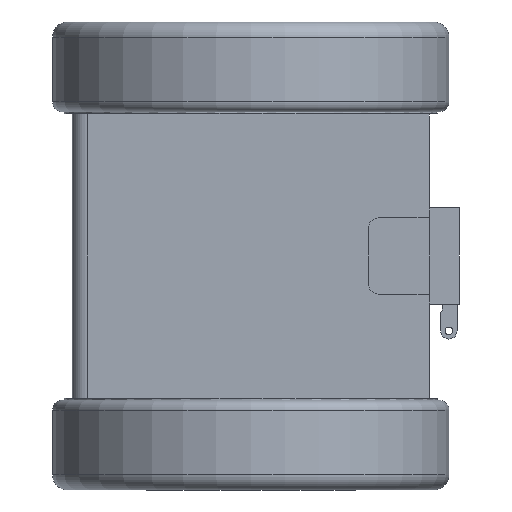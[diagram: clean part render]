
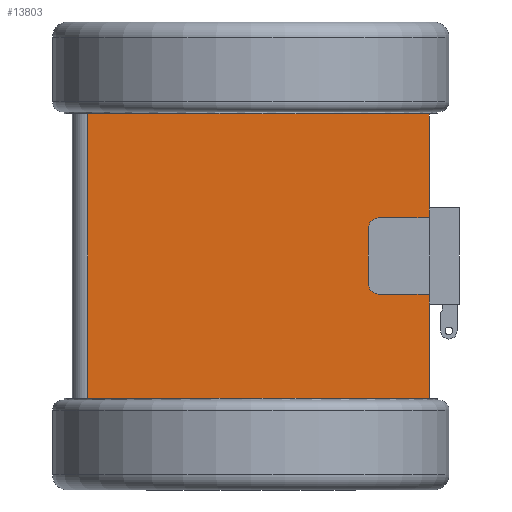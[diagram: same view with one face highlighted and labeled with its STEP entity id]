
A CAD part, left-side view. The second image highlights one B-rep face of the part: STEP entity #13803.
In plain terms, the highlighted planar face has unit normal (-1, 0, 0).
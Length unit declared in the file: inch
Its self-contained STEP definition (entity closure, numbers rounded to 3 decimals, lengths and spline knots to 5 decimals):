
#10 = ORIENTED_EDGE ( 'NONE', *, *, #3870, .T. ) ;
#27 = ORIENTED_EDGE ( 'NONE', *, *, #3016, .F. ) ;
#86 = ORIENTED_EDGE ( 'NONE', *, *, #3873, .T. ) ;
#117 = EDGE_LOOP ( 'NONE', ( #27, #35658, #35715, #507, #212, #10, #86, #228, #36008, #198, #35592, #36129, #419, #36066, #257, #35635 ) ) ;
#198 = ORIENTED_EDGE ( 'NONE', *, *, #3452, .F. ) ;
#212 = ORIENTED_EDGE ( 'NONE', *, *, #3850, .T. ) ;
#228 = ORIENTED_EDGE ( 'NONE', *, *, #3869, .T. ) ;
#257 = ORIENTED_EDGE ( 'NONE', *, *, #3042, .F. ) ;
#419 = ORIENTED_EDGE ( 'NONE', *, *, #3872, .F. ) ;
#507 = ORIENTED_EDGE ( 'NONE', *, *, #3007, .F. ) ;
#1841 = LINE ( 'NONE', #22064, #1847 ) ;
#1847 = VECTOR ( 'NONE', #22067, 39.37008 ) ;
#2060 = FACE_OUTER_BOUND ( 'NONE', #117, .T. ) ;
#2116 = CARTESIAN_POINT ( 'NONE',  ( -4.41, 4.035, -3.51095 ) ) ;
#2120 = CARTESIAN_POINT ( 'NONE',  ( -4.41, -3.16, 0.943 ) ) ;
#2171 = CARTESIAN_POINT ( 'NONE',  ( -4.41, -4.41, -0.943 ) ) ;
#2282 = CARTESIAN_POINT ( 'NONE',  ( -4.41, -4.41, -1.19 ) ) ;
#2310 = CARTESIAN_POINT ( 'NONE',  ( -4.41, -4.41, 0.943 ) ) ;
#2327 = CARTESIAN_POINT ( 'NONE',  ( -4.41, -4.41, 1.19 ) ) ;
#2360 = CARTESIAN_POINT ( 'NONE',  ( -4.41, -1.34998, -3.51095 ) ) ;
#2381 = CARTESIAN_POINT ( 'NONE',  ( -4.41, 1.34998, 3.51095 ) ) ;
#2401 = CARTESIAN_POINT ( 'NONE',  ( -4.41, -2.91, 0.693 ) ) ;
#2558 = CARTESIAN_POINT ( 'NONE',  ( -4.41, 1.34998, -3.51095 ) ) ;
#3007 = EDGE_CURVE ( 'NONE', #5028, #4448, #32708, .T. ) ;
#3016 = EDGE_CURVE ( 'NONE', #4278, #4474, #32721, .T. ) ;
#3022 = EDGE_CURVE ( 'NONE', #4474, #4850, #32737, .T. ) ;
#3042 = EDGE_CURVE ( 'NONE', #4850, #4867, #32529, .T. ) ;
#3132 = EDGE_CURVE ( 'NONE', #4580, #4813, #32285, .T. ) ;
#3452 = EDGE_CURVE ( 'NONE', #4574, #4332, #20224, .T. ) ;
#3765 = EDGE_CURVE ( 'NONE', #4500, #4278, #19505, .T. ) ;
#3850 = EDGE_CURVE ( 'NONE', #5028, #4938, #19910, .T. ) ;
#3854 = EDGE_CURVE ( 'NONE', #4448, #4500, #19958, .T. ) ;
#3855 = EDGE_CURVE ( 'NONE', #4332, #4272, #19722, .T. ) ;
#3859 = EDGE_CURVE ( 'NONE', #4813, #4574, #20074, .T. ) ;
#3869 = EDGE_CURVE ( 'NONE', #4913, #4272, #19776, .T. ) ;
#3870 = EDGE_CURVE ( 'NONE', #4938, #4392, #20560, .T. ) ;
#3872 = EDGE_CURVE ( 'NONE', #4250, #4580, #20346, .T. ) ;
#3873 = EDGE_CURVE ( 'NONE', #4392, #4913, #20358, .T. ) ;
#4250 = VERTEX_POINT ( 'NONE', #2171 ) ;
#4272 = VERTEX_POINT ( 'NONE', #2116 ) ;
#4278 = VERTEX_POINT ( 'NONE', #2120 ) ;
#4332 = VERTEX_POINT ( 'NONE', #2558 ) ;
#4392 = VERTEX_POINT ( 'NONE', #2381 ) ;
#4448 = VERTEX_POINT ( 'NONE', #2327 ) ;
#4474 = VERTEX_POINT ( 'NONE', #2401 ) ;
#4500 = VERTEX_POINT ( 'NONE', #2310 ) ;
#4574 = VERTEX_POINT ( 'NONE', #2360 ) ;
#4580 = VERTEX_POINT ( 'NONE', #2282 ) ;
#4813 = VERTEX_POINT ( 'NONE', #35222 ) ;
#4850 = VERTEX_POINT ( 'NONE', #35052 ) ;
#4867 = VERTEX_POINT ( 'NONE', #35090 ) ;
#4913 = VERTEX_POINT ( 'NONE', #35065 ) ;
#4938 = VERTEX_POINT ( 'NONE', #35172 ) ;
#5028 = VERTEX_POINT ( 'NONE', #35552 ) ;
#7218 = CARTESIAN_POINT ( 'NONE',  ( -4.41, -4.41, 0.943 ) ) ;
#7219 = DIRECTION ( 'NONE',  ( 0., 1., 0. ) ) ;
#9049 = DIRECTION ( 'NONE',  ( 0., 1., 0. ) ) ;
#9103 = DIRECTION ( 'NONE',  ( 0., 0., -1. ) ) ;
#9233 = DIRECTION ( 'NONE',  ( 0., 1., 0. ) ) ;
#9251 = CARTESIAN_POINT ( 'NONE',  ( -4.41, -4.41, -3.51095 ) ) ;
#9252 = DIRECTION ( 'NONE',  ( 0., 1., 0. ) ) ;
#9253 = CARTESIAN_POINT ( 'NONE',  ( -4.41, -4.41, 3.51095 ) ) ;
#9255 = DIRECTION ( 'NONE',  ( 0., 0., -1. ) ) ;
#9259 = CARTESIAN_POINT ( 'NONE',  ( -4.41, -4.41, 1.19 ) ) ;
#9260 = CARTESIAN_POINT ( 'NONE',  ( -4.41, -4.41, -3.51095 ) ) ;
#9313 = CARTESIAN_POINT ( 'NONE',  ( -4.41, 4.035, -3.51095 ) ) ;
#9333 = DIRECTION ( 'NONE',  ( 0., 1., 0. ) ) ;
#9394 = CARTESIAN_POINT ( 'NONE',  ( -4.41, -4.41, 3.48595 ) ) ;
#9403 = DIRECTION ( 'NONE',  ( 0., 0., -1. ) ) ;
#9419 = CARTESIAN_POINT ( 'NONE',  ( -4.41, -4.41, 3.51095 ) ) ;
#9448 = CARTESIAN_POINT ( 'NONE',  ( -4.41, -4.41, 3.51095 ) ) ;
#9489 = DIRECTION ( 'NONE',  ( 0., 1., 0. ) ) ;
#10375 = AXIS2_PLACEMENT_3D ( 'NONE', #15972, #15924, #15998 ) ;
#10378 = AXIS2_PLACEMENT_3D ( 'NONE', #15688, #16116, #15799 ) ;
#13803 = ADVANCED_FACE ( 'NONE', ( #2060 ), #21415, .F. ) ;
#14824 = DIRECTION ( 'NONE',  ( 0., 0., -1. ) ) ;
#15098 = CARTESIAN_POINT ( 'NONE',  ( -4.41, -4.41, 3.48595 ) ) ;
#15125 = DIRECTION ( 'NONE',  ( 0., 0., -1. ) ) ;
#15223 = CARTESIAN_POINT ( 'NONE',  ( -4.41, -4.41, 3.48595 ) ) ;
#15688 = CARTESIAN_POINT ( 'NONE',  ( -4.41, -3.16, 0.693 ) ) ;
#15799 = DIRECTION ( 'NONE',  ( 0., -1., 0. ) ) ;
#15837 = CARTESIAN_POINT ( 'NONE',  ( -4.41, -2.91, 0.693 ) ) ;
#15924 = DIRECTION ( 'NONE',  ( -1., 0., 0. ) ) ;
#15972 = CARTESIAN_POINT ( 'NONE',  ( -4.41, -3.16, -0.693 ) ) ;
#15998 = DIRECTION ( 'NONE',  ( 0., -1., 0. ) ) ;
#16077 = DIRECTION ( 'NONE',  ( 0., 0., -1. ) ) ;
#16116 = DIRECTION ( 'NONE',  ( -1., 0., 0. ) ) ;
#19505 = LINE ( 'NONE', #7218, #19579 ) ;
#19579 = VECTOR ( 'NONE', #7219, 39.37008 ) ;
#19703 = VECTOR ( 'NONE', #9049, 39.37008 ) ;
#19722 = LINE ( 'NONE', #9260, #19928 ) ;
#19776 = LINE ( 'NONE', #9313, #19981 ) ;
#19910 = LINE ( 'NONE', #9253, #20410 ) ;
#19914 = VECTOR ( 'NONE', #9255, 39.37008 ) ;
#19928 = VECTOR ( 'NONE', #9252, 39.37008 ) ;
#19943 = VECTOR ( 'NONE', #9333, 39.37008 ) ;
#19958 = LINE ( 'NONE', #9259, #19914 ) ;
#19981 = VECTOR ( 'NONE', #9103, 39.37008 ) ;
#20074 = LINE ( 'NONE', #9251, #20458 ) ;
#20224 = LINE ( 'NONE', #22989, #20247 ) ;
#20247 = VECTOR ( 'NONE', #22053, 39.37008 ) ;
#20346 = LINE ( 'NONE', #9394, #20409 ) ;
#20358 = LINE ( 'NONE', #9448, #19943 ) ;
#20409 = VECTOR ( 'NONE', #9403, 39.37008 ) ;
#20410 = VECTOR ( 'NONE', #9233, 39.37008 ) ;
#20458 = VECTOR ( 'NONE', #9489, 39.37008 ) ;
#20560 = LINE ( 'NONE', #9419, #19703 ) ;
#21415 = PLANE ( 'NONE',  #28210 ) ;
#21416 = CARTESIAN_POINT ( 'NONE',  ( -4.41, 4.41, 3.48595 ) ) ;
#21421 = DIRECTION ( 'NONE',  ( 1., 0., 0. ) ) ;
#21422 = DIRECTION ( 'NONE',  ( 0., 1., 0. ) ) ;
#22053 = DIRECTION ( 'NONE',  ( 0., 1., 0. ) ) ;
#22064 = CARTESIAN_POINT ( 'NONE',  ( -4.41, -4.41, -0.943 ) ) ;
#22067 = DIRECTION ( 'NONE',  ( 0., -1., 0. ) ) ;
#22989 = CARTESIAN_POINT ( 'NONE',  ( -4.41, -4.41, -3.51095 ) ) ;
#25732 = EDGE_CURVE ( 'NONE', #4867, #4250, #1841, .T. ) ;
#28210 = AXIS2_PLACEMENT_3D ( 'NONE', #21416, #21421, #21422 ) ;
#32285 = LINE ( 'NONE', #15098, #32304 ) ;
#32304 = VECTOR ( 'NONE', #14824, 39.37008 ) ;
#32529 = CIRCLE ( 'NONE', #10375, 0.25 ) ;
#32707 = VECTOR ( 'NONE', #16077, 39.37008 ) ;
#32708 = LINE ( 'NONE', #15223, #32707 ) ;
#32721 = CIRCLE ( 'NONE', #10378, 0.25 ) ;
#32737 = LINE ( 'NONE', #15837, #32741 ) ;
#32741 = VECTOR ( 'NONE', #15125, 39.37008 ) ;
#35052 = CARTESIAN_POINT ( 'NONE',  ( -4.41, -2.91, -0.693 ) ) ;
#35065 = CARTESIAN_POINT ( 'NONE',  ( -4.41, 4.035, 3.51095 ) ) ;
#35090 = CARTESIAN_POINT ( 'NONE',  ( -4.41, -3.16, -0.943 ) ) ;
#35172 = CARTESIAN_POINT ( 'NONE',  ( -4.41, -1.34998, 3.51095 ) ) ;
#35222 = CARTESIAN_POINT ( 'NONE',  ( -4.41, -4.41, -3.51095 ) ) ;
#35552 = CARTESIAN_POINT ( 'NONE',  ( -4.41, -4.41, 3.51095 ) ) ;
#35592 = ORIENTED_EDGE ( 'NONE', *, *, #3859, .F. ) ;
#35635 = ORIENTED_EDGE ( 'NONE', *, *, #3022, .F. ) ;
#35658 = ORIENTED_EDGE ( 'NONE', *, *, #3765, .F. ) ;
#35715 = ORIENTED_EDGE ( 'NONE', *, *, #3854, .F. ) ;
#36008 = ORIENTED_EDGE ( 'NONE', *, *, #3855, .F. ) ;
#36066 = ORIENTED_EDGE ( 'NONE', *, *, #25732, .F. ) ;
#36129 = ORIENTED_EDGE ( 'NONE', *, *, #3132, .F. ) ;
